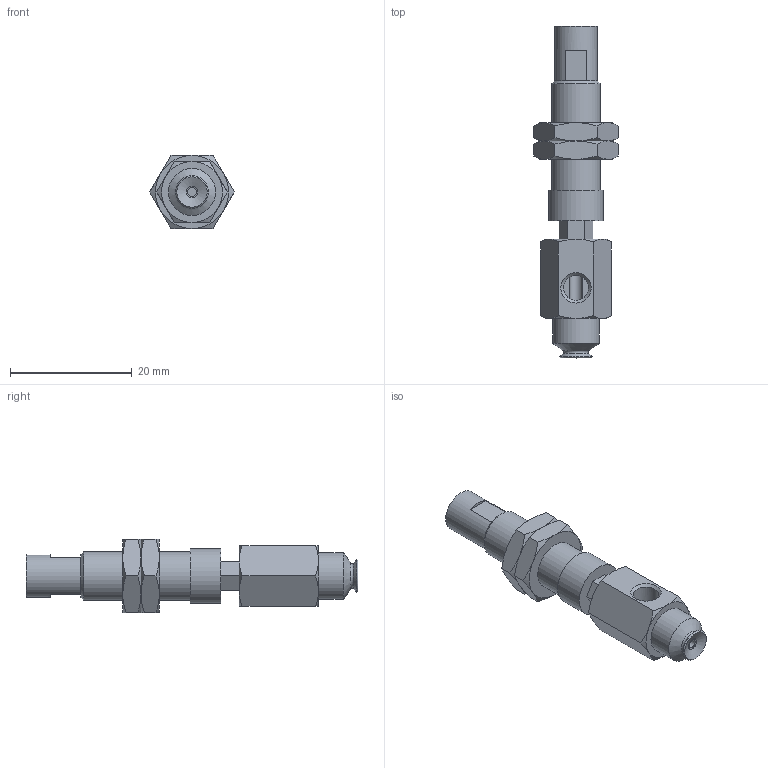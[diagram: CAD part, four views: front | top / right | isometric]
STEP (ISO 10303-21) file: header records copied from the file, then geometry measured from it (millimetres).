
FILE_DESCRIPTION(('STEP AP203'),'1');
FILE_NAME('.stp','2025-04-10T02:39:29',(' '),(' '),'Spatial InterOp 3D',' ',' ');
FILE_SCHEMA(('CONFIG_CONTROL_DESIGN'));
Length unit declared in the file: millimetre
Products named in the file (6): BNABPFYH-5A-3-※; CONNECTOR-H-5A-3; Nut-5A-3-h; NAPFTH-5A-3-FBODY; NAPFTH-5A-3-MBODY; BPFG-5A-※
Assembly tree (6 placements, depth 2):
  BNABPFYH-5A-3-※
    CONNECTOR-H-5A-3
    Nut-5A-3-h  x2
    NAPFTH-5A-3-FBODY
    NAPFTH-5A-3-MBODY
    BPFG-5A-※
Bounding box: 13.86 x 54.5 x 12 mm (x, y, z)
Volume: 3255.2 mm3; surface area: 3914.3 mm2
Topology: 6 solids, 6 shells, 138 faces, 300 edges, 182 vertices
Faces by surface type: plane 62, cone 51, cylinder 15, torus 9, bspline 1
Full cylindrical faces by diameter (mm): 1.4 x1, 2 x1, 4 x2, 4.134 x2, 5 x1, 6 x2, 7 x1, 7.188 x2, 7.7 x1, 8 x1, 9 x1
Entity records: 3447 total; most frequent: CARTESIAN_POINT 851, DIRECTION 474, ORIENTED_EDGE 416, EDGE_CURVE 208, AXIS2_PLACEMENT_3D 199, EDGE_LOOP 168, VERTEX_POINT 146, FACE_OUTER_BOUND 139
